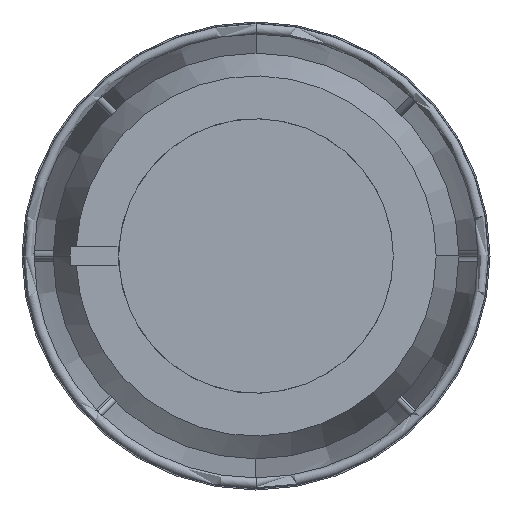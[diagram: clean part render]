
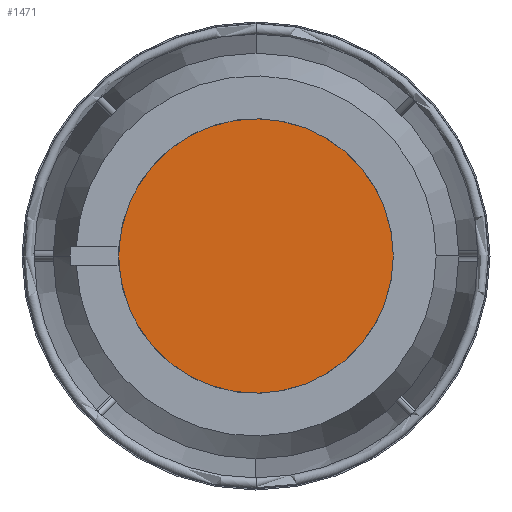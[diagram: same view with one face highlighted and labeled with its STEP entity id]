
A CAD part, front view. The second image highlights one B-rep face of the part: STEP entity #1471.
In plain terms, the highlighted planar face has unit normal (0, -1, 0).
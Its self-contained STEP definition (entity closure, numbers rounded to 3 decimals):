
#204 = PLANE ( 'NONE',  #1839 ) ;
#869 = CARTESIAN_POINT ( 'NONE',  ( 0., 0., 0. ) ) ;
#967 = CIRCLE ( 'NONE', #3377, 44. ) ;
#1148 = CIRCLE ( 'NONE', #2796, 44. ) ;
#1230 = DIRECTION ( 'NONE',  ( 0., -1., 0. ) ) ;
#1454 = ORIENTED_EDGE ( 'NONE', *, *, #4594, .F. ) ;
#1471 = ADVANCED_FACE ( 'NONE', ( #2128 ), #204, .T. ) ;
#1584 = DIRECTION ( 'NONE',  ( -1., 0., 0. ) ) ;
#1794 = CARTESIAN_POINT ( 'NONE',  ( 44., 0., 0. ) ) ;
#1839 = AXIS2_PLACEMENT_3D ( 'NONE', #4556, #1230, #4188 ) ;
#2128 = FACE_OUTER_BOUND ( 'NONE', #3575, .T. ) ;
#2270 = DIRECTION ( 'NONE',  ( -1., 0., 0. ) ) ;
#2299 = DIRECTION ( 'NONE',  ( 0., 1., 0. ) ) ;
#2703 = DIRECTION ( 'NONE',  ( 0., 1., 0. ) ) ;
#2796 = AXIS2_PLACEMENT_3D ( 'NONE', #3380, #2299, #1584 ) ;
#3377 = AXIS2_PLACEMENT_3D ( 'NONE', #869, #2703, #2270 ) ;
#3380 = CARTESIAN_POINT ( 'NONE',  ( 0., 0., 0. ) ) ;
#3415 = ORIENTED_EDGE ( 'NONE', *, *, #4651, .F. ) ;
#3575 = EDGE_LOOP ( 'NONE', ( #3415, #1454 ) ) ;
#4034 = CARTESIAN_POINT ( 'NONE',  ( -44., 0., 0. ) ) ;
#4188 = DIRECTION ( 'NONE',  ( 1., 0., 0. ) ) ;
#4435 = VERTEX_POINT ( 'NONE', #4034 ) ;
#4445 = VERTEX_POINT ( 'NONE', #1794 ) ;
#4556 = CARTESIAN_POINT ( 'NONE',  ( 0., 0., 0. ) ) ;
#4594 = EDGE_CURVE ( 'NONE', #4435, #4445, #967, .T. ) ;
#4651 = EDGE_CURVE ( 'NONE', #4445, #4435, #1148, .T. ) ;
